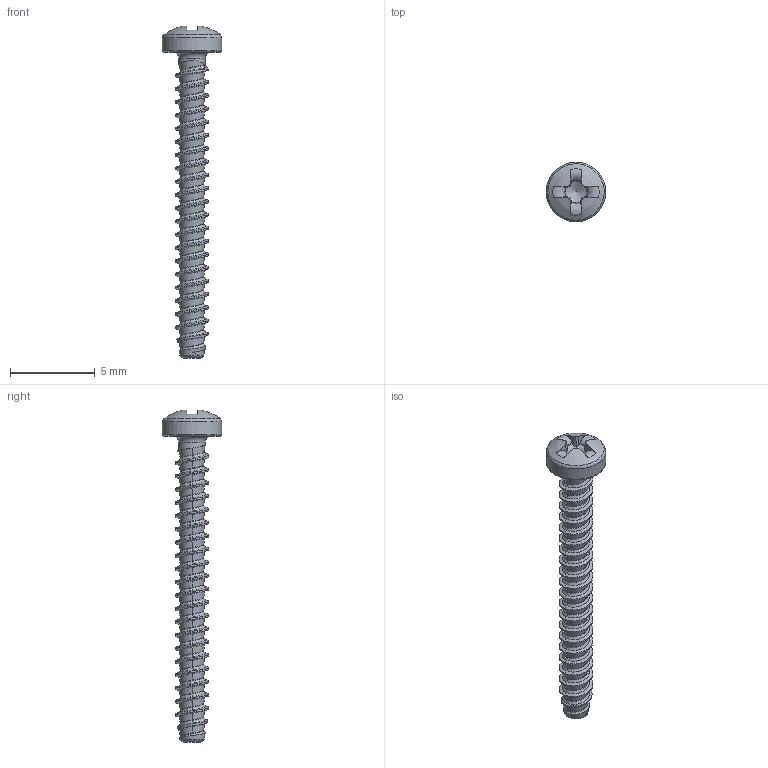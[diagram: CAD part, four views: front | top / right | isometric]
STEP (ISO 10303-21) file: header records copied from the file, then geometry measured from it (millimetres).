
FILE_DESCRIPTION(/* description */ (''),/* implementation_level */ '2;1');
FILE_NAME(/* name */ 'KN6032-STSplus-20x18-H1.step',/* time_stamp */ '2017-10-10T14:55:37+02:00',/* author */ (''),/* organization */ (''),/* preprocessor_version */ 'ST-DEVELOPER v16',/* originating_system */ 'SIEMENS PLM Software NX 10.0',/* authorisation */ '');
FILE_SCHEMA (('AUTOMOTIVE_DESIGN { 1 0 10303 214 3 1 1 1 }'));
Length unit declared in the file: millimetre
Products named in the file (1): KN6032-STSplus-20x18-H1
Bounding box: 3.5 x 3.5 x 19.54 mm (x, y, z)
Volume: 45.4 mm3; surface area: 163.8 mm2
Topology: 1 solids, 1 shells, 130 faces, 337 edges, 209 vertices
Faces by surface type: bspline 92, plane 18, torus 8, cone 7, cylinder 4, sphere 1
Full cylindrical faces by diameter (mm): 1.58 x1, 3.5 x1
Entity records: 9514 total; most frequent: CARTESIAN_POINT 7018, ORIENTED_EDGE 646, EDGE_CURVE 323, DIRECTION 256, VERTEX_POINT 204, B_SPLINE_CURVE_WITH_KNOTS 184, EDGE_LOOP 138, ADVANCED_FACE 130
